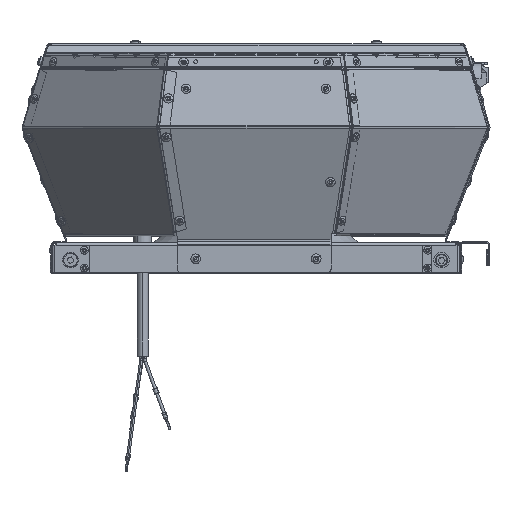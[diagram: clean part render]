
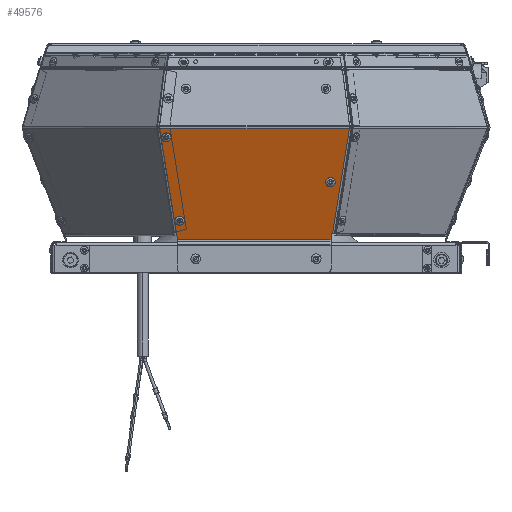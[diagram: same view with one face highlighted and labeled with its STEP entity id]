
A CAD part, top view. The second image highlights one B-rep face of the part: STEP entity #49576.
In plain terms, the highlighted planar face has unit normal (0, -0.362, 0.932).
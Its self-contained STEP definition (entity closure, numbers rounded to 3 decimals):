
#853 = EDGE_LOOP ( 'NONE', ( #78773, #78783, #78797, #78806, #78818, #78827, #78842, #78851 ) ) ;
#871 = EDGE_LOOP ( 'NONE', ( #78727, #78734 ) ) ;
#895 = EDGE_LOOP ( 'NONE', ( #78706, #78715 ) ) ;
#896 = EDGE_LOOP ( 'NONE', ( #78750, #78759 ) ) ;
#1648 = DIRECTION ( 'NONE',  ( -0.148, 0.922, 0.358 ) ) ;
#1656 = CARTESIAN_POINT ( 'NONE',  ( -65.164, 4.499, 158.165 ) ) ;
#1878 = CARTESIAN_POINT ( 'NONE',  ( -74.512, 89.402, 191.182 ) ) ;
#1880 = DIRECTION ( 'NONE',  ( 0., 0.362, -0.932 ) ) ;
#1882 = DIRECTION ( 'NONE',  ( 0., 0.932, 0.362 ) ) ;
#9489 = EDGE_CURVE ( 'NONE', #54015, #60150, #90506, .T. ) ;
#9506 = EDGE_CURVE ( 'NONE', #61780, #53786, #90530, .T. ) ;
#9688 = EDGE_CURVE ( 'NONE', #54118, #54012, #90793, .T. ) ;
#21887 = AXIS2_PLACEMENT_3D ( 'NONE', #56279, #56281, #56283 ) ;
#21892 = AXIS2_PLACEMENT_3D ( 'NONE', #56379, #56380, #56381 ) ;
#21977 = AXIS2_PLACEMENT_3D ( 'NONE', #91673, #91674, #91675 ) ;
#21981 = AXIS2_PLACEMENT_3D ( 'NONE', #91713, #91714, #91715 ) ;
#22781 = CARTESIAN_POINT ( 'NONE',  ( 61.664, 52.209, 176.718 ) ) ;
#22782 = DIRECTION ( 'NONE',  ( 0., -0.362, 0.932 ) ) ;
#22783 = DIRECTION ( 'NONE',  ( 0., -0.932, -0.362 ) ) ;
#30185 = LINE ( 'NONE', #71399, #30187 ) ;
#30187 = VECTOR ( 'NONE', #71398, 1000. ) ;
#30208 = LINE ( 'NONE', #71439, #30211 ) ;
#30211 = VECTOR ( 'NONE', #71440, 1000. ) ;
#30401 = LINE ( 'NONE', #71803, #30403 ) ;
#30403 = VECTOR ( 'NONE', #71804, 1000. ) ;
#34832 = AXIS2_PLACEMENT_3D ( 'NONE', #1878, #1880, #1882 ) ;
#37002 = AXIS2_PLACEMENT_3D ( 'NONE', #22781, #22782, #22783 ) ;
#39552 = AXIS2_PLACEMENT_3D ( 'NONE', #69579, #69570, #69583 ) ;
#40683 = CARTESIAN_POINT ( 'NONE',  ( 77.58, 96.601, 193.982 ) ) ;
#40857 = CARTESIAN_POINT ( 'NONE',  ( 77.589, 96.529, 193.954 ) ) ;
#41200 = CARTESIAN_POINT ( 'NONE',  ( 61.664, 50.251, 175.957 ) ) ;
#41616 = CARTESIAN_POINT ( 'NONE',  ( 62.259, 9.286, 160.026 ) ) ;
#41653 = CARTESIAN_POINT ( 'NONE',  ( 63.536, 9.286, 160.026 ) ) ;
#46108 = FACE_BOUND ( 'NONE', #896, .T. ) ;
#46110 = FACE_BOUND ( 'NONE', #895, .T. ) ;
#46114 = FACE_OUTER_BOUND ( 'NONE', #853, .T. ) ;
#46117 = FACE_BOUND ( 'NONE', #871, .T. ) ;
#49576 = ADVANCED_FACE ( 'NONE', ( #46110, #46117, #46108, #46114 ), #69582, .F. ) ;
#53786 = VERTEX_POINT ( 'NONE', #82634 ) ;
#53824 = VERTEX_POINT ( 'NONE', #82672 ) ;
#53984 = VERTEX_POINT ( 'NONE', #82832 ) ;
#54011 = VERTEX_POINT ( 'NONE', #82859 ) ;
#54012 = VERTEX_POINT ( 'NONE', #82860 ) ;
#54013 = VERTEX_POINT ( 'NONE', #82861 ) ;
#54015 = VERTEX_POINT ( 'NONE', #82863 ) ;
#54118 = VERTEX_POINT ( 'NONE', #82966 ) ;
#55409 = CARTESIAN_POINT ( 'NONE',  ( 77.58, 96.532, 193.955 ) ) ;
#55412 = DIRECTION ( 'NONE',  ( 0.965, -0.245, -0.095 ) ) ;
#56279 = CARTESIAN_POINT ( 'NONE',  ( -63.383, 20.276, 164.301 ) ) ;
#56281 = DIRECTION ( 'NONE',  ( 0., 0.362, -0.932 ) ) ;
#56283 = DIRECTION ( 'NONE',  ( 0., 0.932, 0.362 ) ) ;
#56284 = CARTESIAN_POINT ( 'NONE',  ( 62.259, 9.286, 160.026 ) ) ;
#56301 = DIRECTION ( 'NONE',  ( -1., 0., 0. ) ) ;
#56372 = CARTESIAN_POINT ( 'NONE',  ( 62.259, -7.491, 153.503 ) ) ;
#56373 = DIRECTION ( 'NONE',  ( 0., -0.932, -0.362 ) ) ;
#56379 = CARTESIAN_POINT ( 'NONE',  ( 61.664, 52.209, 176.718 ) ) ;
#56380 = DIRECTION ( 'NONE',  ( 0., -0.362, 0.932 ) ) ;
#56381 = DIRECTION ( 'NONE',  ( 0., -0.932, -0.362 ) ) ;
#60150 = VERTEX_POINT ( 'NONE', #83328 ) ;
#60575 = VERTEX_POINT ( 'NONE', #40683 ) ;
#61432 = VERTEX_POINT ( 'NONE', #40857 ) ;
#61780 = VERTEX_POINT ( 'NONE', #41200 ) ;
#62270 = VERTEX_POINT ( 'NONE', #41616 ) ;
#62344 = VERTEX_POINT ( 'NONE', #41653 ) ;
#65324 = LINE ( 'NONE', #55409, #65330 ) ;
#65330 = VECTOR ( 'NONE', #55412, 1000. ) ;
#65902 = CIRCLE ( 'NONE', #21887, 2.1 ) ;
#65912 = LINE ( 'NONE', #56284, #65914 ) ;
#65914 = VECTOR ( 'NONE', #56301, 1000. ) ;
#65940 = LINE ( 'NONE', #56372, #65948 ) ;
#65943 = CIRCLE ( 'NONE', #21892, 2.1 ) ;
#65948 = VECTOR ( 'NONE', #56373, 1000. ) ;
#66643 = CIRCLE ( 'NONE', #21977, 2.1 ) ;
#66669 = CIRCLE ( 'NONE', #21981, 2.1 ) ;
#66811 = LINE ( 'NONE', #91836, #66818 ) ;
#66818 = VECTOR ( 'NONE', #91842, 1000. ) ;
#69570 = DIRECTION ( 'NONE',  ( 0., 0.362, -0.932 ) ) ;
#69579 = CARTESIAN_POINT ( 'NONE',  ( 80., 97.367, 194.279 ) ) ;
#69582 = PLANE ( 'NONE',  #39552 ) ;
#69583 = DIRECTION ( 'NONE',  ( 0., 0.932, 0.362 ) ) ;
#71398 = DIRECTION ( 'NONE',  ( -1., 0., 0. ) ) ;
#71399 = CARTESIAN_POINT ( 'NONE',  ( 80., 96.601, 193.982 ) ) ;
#71439 = CARTESIAN_POINT ( 'NONE',  ( 62.817, 4.827, 158.293 ) ) ;
#71440 = DIRECTION ( 'NONE',  ( 0.148, 0.922, 0.358 ) ) ;
#71803 = CARTESIAN_POINT ( 'NONE',  ( 77.58, 96.532, 193.955 ) ) ;
#71804 = DIRECTION ( 'NONE',  ( 0., -0.932, -0.362 ) ) ;
#78706 = ORIENTED_EDGE ( 'NONE', *, *, #9506, .F. ) ;
#78715 = ORIENTED_EDGE ( 'NONE', *, *, #88799, .F. ) ;
#78727 = ORIENTED_EDGE ( 'NONE', *, *, #9688, .T. ) ;
#78734 = ORIENTED_EDGE ( 'NONE', *, *, #89326, .T. ) ;
#78750 = ORIENTED_EDGE ( 'NONE', *, *, #88765, .T. ) ;
#78759 = ORIENTED_EDGE ( 'NONE', *, *, #89356, .T. ) ;
#78773 = ORIENTED_EDGE ( 'NONE', *, *, #89463, .F. ) ;
#78783 = ORIENTED_EDGE ( 'NONE', *, *, #88795, .F. ) ;
#78797 = ORIENTED_EDGE ( 'NONE', *, *, #88769, .F. ) ;
#78806 = ORIENTED_EDGE ( 'NONE', *, *, #89714, .T. ) ;
#78818 = ORIENTED_EDGE ( 'NONE', *, *, #88494, .F. ) ;
#78827 = ORIENTED_EDGE ( 'NONE', *, *, #89847, .F. ) ;
#78842 = ORIENTED_EDGE ( 'NONE', *, *, #89700, .T. ) ;
#78851 = ORIENTED_EDGE ( 'NONE', *, *, #9489, .F. ) ;
#82634 = CARTESIAN_POINT ( 'NONE',  ( 61.664, 54.166, 177.48 ) ) ;
#82672 = CARTESIAN_POINT ( 'NONE',  ( 62.259, 4.499, 158.165 ) ) ;
#82832 = CARTESIAN_POINT ( 'NONE',  ( 77.58, 96.532, 193.955 ) ) ;
#82859 = CARTESIAN_POINT ( 'NONE',  ( -63.383, 18.319, 163.539 ) ) ;
#82860 = CARTESIAN_POINT ( 'NONE',  ( -74.512, 87.445, 190.421 ) ) ;
#82861 = CARTESIAN_POINT ( 'NONE',  ( -63.383, 22.233, 165.062 ) ) ;
#82863 = CARTESIAN_POINT ( 'NONE',  ( -65.164, 4.499, 158.165 ) ) ;
#82966 = CARTESIAN_POINT ( 'NONE',  ( -74.512, 91.359, 191.943 ) ) ;
#83328 = CARTESIAN_POINT ( 'NONE',  ( -80., 96.601, 193.982 ) ) ;
#88494 = EDGE_CURVE ( 'NONE', #53984, #61432, #65324, .T. ) ;
#88765 = EDGE_CURVE ( 'NONE', #54013, #54011, #65902, .T. ) ;
#88769 = EDGE_CURVE ( 'NONE', #62344, #62270, #65912, .T. ) ;
#88795 = EDGE_CURVE ( 'NONE', #62270, #53824, #65940, .T. ) ;
#88799 = EDGE_CURVE ( 'NONE', #53786, #61780, #65943, .T. ) ;
#89326 = EDGE_CURVE ( 'NONE', #54012, #54118, #66643, .T. ) ;
#89356 = EDGE_CURVE ( 'NONE', #54011, #54013, #66669, .T. ) ;
#89463 = EDGE_CURVE ( 'NONE', #53824, #54015, #66811, .T. ) ;
#89700 = EDGE_CURVE ( 'NONE', #60575, #60150, #30185, .T. ) ;
#89714 = EDGE_CURVE ( 'NONE', #62344, #61432, #30208, .T. ) ;
#89847 = EDGE_CURVE ( 'NONE', #60575, #53984, #30401, .T. ) ;
#90506 = LINE ( 'NONE', #1656, #90511 ) ;
#90511 = VECTOR ( 'NONE', #1648, 1000. ) ;
#90530 = CIRCLE ( 'NONE', #37002, 2.1 ) ;
#90793 = CIRCLE ( 'NONE', #34832, 2.1 ) ;
#91673 = CARTESIAN_POINT ( 'NONE',  ( -74.512, 89.402, 191.182 ) ) ;
#91674 = DIRECTION ( 'NONE',  ( 0., 0.362, -0.932 ) ) ;
#91675 = DIRECTION ( 'NONE',  ( 0., 0.932, 0.362 ) ) ;
#91713 = CARTESIAN_POINT ( 'NONE',  ( -63.383, 20.276, 164.301 ) ) ;
#91714 = DIRECTION ( 'NONE',  ( 0., 0.362, -0.932 ) ) ;
#91715 = DIRECTION ( 'NONE',  ( 0., 0.932, 0.362 ) ) ;
#91836 = CARTESIAN_POINT ( 'NONE',  ( 80., 4.499, 158.165 ) ) ;
#91842 = DIRECTION ( 'NONE',  ( -1., 0., 0. ) ) ;
